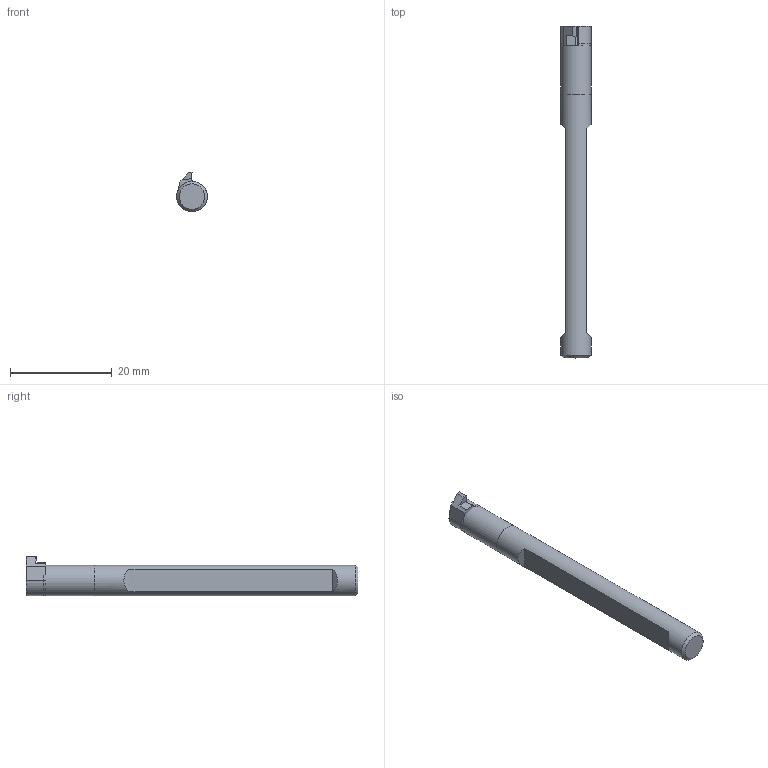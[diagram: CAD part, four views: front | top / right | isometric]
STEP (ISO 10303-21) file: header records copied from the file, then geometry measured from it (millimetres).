
FILE_DESCRIPTION(/* description */ (''),/* implementation_level */ '2;1');
FILE_NAME(/* name */ 'NFTIH08206C-HAAS-STP.stp',/* time_stamp */ '2021-09-17T11:50:26+09:00',/* author */ (''),/* organization */ (''),/* preprocessor_version */ 'ST-DEVELOPER v11',/* originating_system */ 'SIEMENS UGS NX 6.0',/* authorisation */ '');
FILE_SCHEMA (('CONFIG_CONTROL_DESIGN'));
Length unit declared in the file: millimetre
Products named in the file (1): NFTIH08206C-HAAS-STP
Bounding box: 6 x 65.23 x 7.8 mm (x, y, z)
Volume: 1613.2 mm3; surface area: 1525.9 mm2
Topology: 4 solids, 4 shells, 59 faces, 137 edges, 90 vertices
Faces by surface type: plane 37, cylinder 16, cone 4, torus 2
Full cylindrical faces by diameter (mm): 2 x1, 2.262 x1, 2.5 x2, 3.8 x1, 5.95 x1, 6 x1
Entity records: 1664 total; most frequent: DIRECTION 282, CARTESIAN_POINT 266, ORIENTED_EDGE 240, EDGE_CURVE 120, AXIS2_PLACEMENT_3D 102, VERTEX_POINT 86, LINE 78, VECTOR 78
